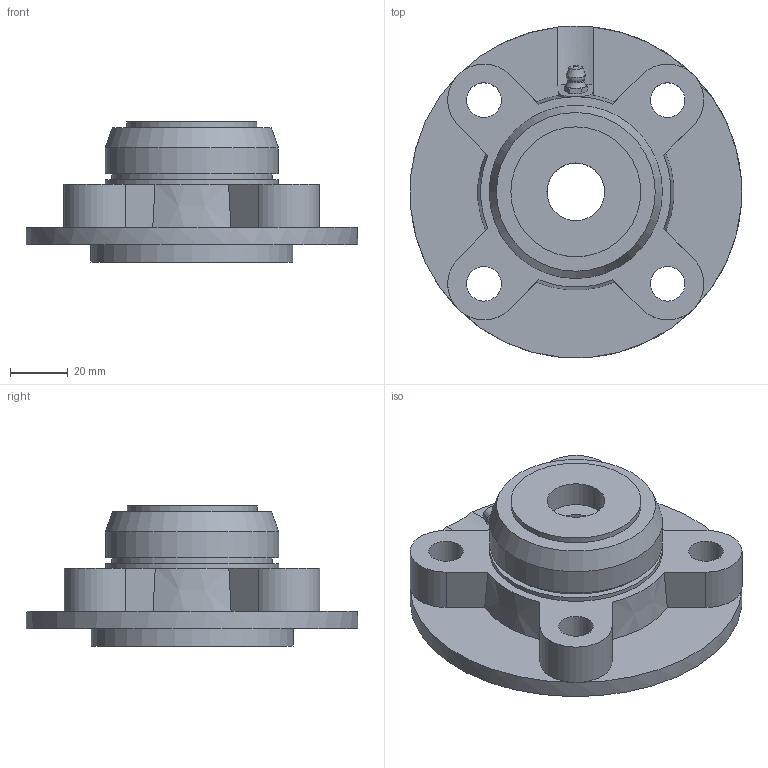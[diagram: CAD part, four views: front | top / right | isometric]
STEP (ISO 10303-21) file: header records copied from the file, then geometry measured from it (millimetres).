
FILE_DESCRIPTION((''),'2;1');
FILE_NAME('\\Ts-tgl068\j-cad-d-base\00.3DCADデータ作成フォルダ\02.フランジ形\UKFC200C(E)\UKFC205C+H.stp','2014-05-22T07:49:35',('btec_1106_2'),(''),'Autodesk Inventor 2012','Autodesk Inventor 2012','');
FILE_SCHEMA(('AUTOMOTIVE_DESIGN { 1 0 10303 214 1 1 1 1 }'));
Length unit declared in the file: millimetre
Products named in the file (5): UKFC200C+H; FC205C; UK205; GU1; 205CPA20
Assembly tree (4 placements, depth 2):
  UKFC200C+H
    FC205C
    UK205
    GU1
    205CPA20
Bounding box: 114.87 x 114.97 x 48.5 mm (x, y, z)
Volume: 154827.7 mm3; surface area: 60207.3 mm2
Topology: 4 solids, 4 shells, 206 faces, 523 edges, 339 vertices
Faces by surface type: plane 88, cylinder 55, cone 55, sphere 4, bspline 2, torus 2
Full cylindrical faces by diameter (mm): 5.359 x1, 6.35 x1, 12 x4, 20 x2, 34 x2, 45 x2, 54 x1, 55.6 x1, 58.4 x2, 60 x3, 70 x1, 115 x1
Entity records: 6120 total; most frequent: CARTESIAN_POINT 1391, ORIENTED_EDGE 960, DIRECTION 949, EDGE_CURVE 480, AXIS2_PLACEMENT_3D 396, VERTEX_POINT 326, EDGE_LOOP 269, FACE_OUTER_BOUND 206
